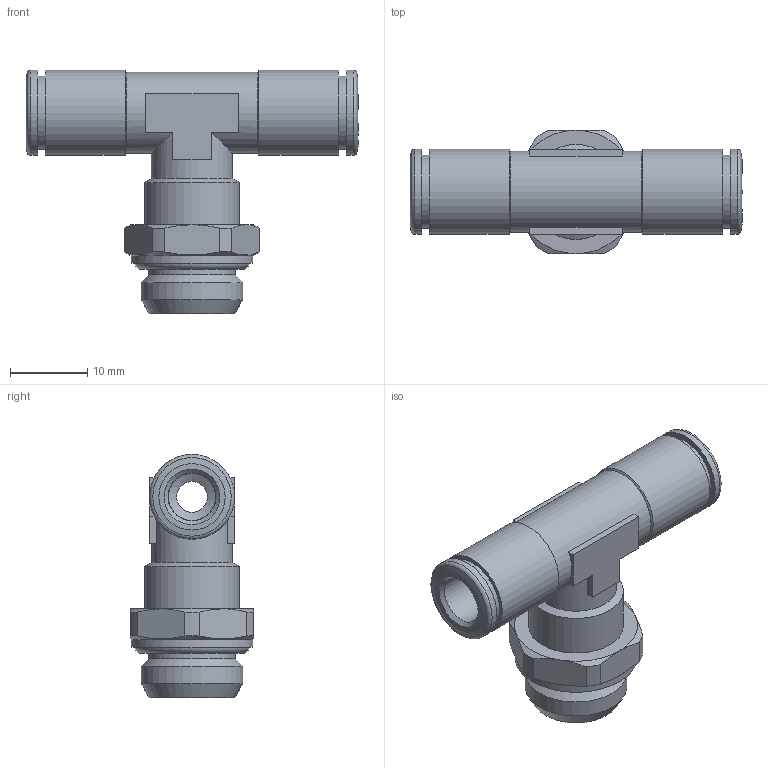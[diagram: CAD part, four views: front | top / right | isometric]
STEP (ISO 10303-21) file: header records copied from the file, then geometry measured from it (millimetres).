
FILE_DESCRIPTION(/* description */ (''),/* implementation_level */ '2;1');
FILE_NAME(/* name */ '202004-ES-I1-N2_STX020_6_G14_30.06.16',/* time_stamp */ '2016-06-30T10:36:35+02:00',/* author */ (''),/* organization */ (''),/* preprocessor_version */ 'ST-DEVELOPER v16.5',/* originating_system */ 'HiCAD 2016 2101.0 Build 254',/* authorisation */ '');
FILE_SCHEMA (('AUTOMOTIVE_DESIGN { 1 0 10303 214 1 1 1 1 }'));
Length unit declared in the file: millimetre
Products named in the file (6): Root; OR 11.11X1.78; 214603-1-N2; DR6-1_NEU; R202003-ES-N2
Assembly tree (5 placements, depth 2):
  Root
    OR 11.11X1.78
    214603-1-N2
    DR6-1_NEU
    DR6-1_NEU
    R202003-ES-N2
Bounding box: 43 x 16 x 31.5 mm (x, y, z)
Volume: 4353.2 mm3; surface area: 5887.4 mm2
Topology: 5 solids, 5 shells, 119 faces, 260 edges, 158 vertices
Faces by surface type: plane 42, cone 36, cylinder 36, torus 5
Full cylindrical faces by diameter (mm): 4 x1, 6 x2, 6.1 x2, 6.2 x2, 8.3 x2, 8.5 x1, 9 x4, 9.5 x2, 9.6 x2, 10.1 x2, 10.5 x2, 11 x4, 11.2 x1, 12.3 x1, 13.157 x1, 15.8 x1
Entity records: 5543 total; most frequent: CARTESIAN_POINT 1223, DIRECTION 560, PRESENTATION_STYLE_ASSIGNMENT 371, COLOUR_RGB 368, DRAUGHTING_PRE_DEFINED_CURVE_FONT 366, CURVE_STYLE 366, OVER_RIDING_STYLED_ITEM 366, ORIENTED_EDGE 366
